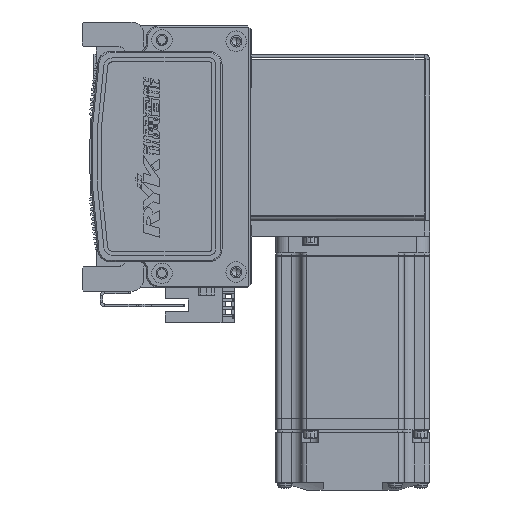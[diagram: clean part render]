
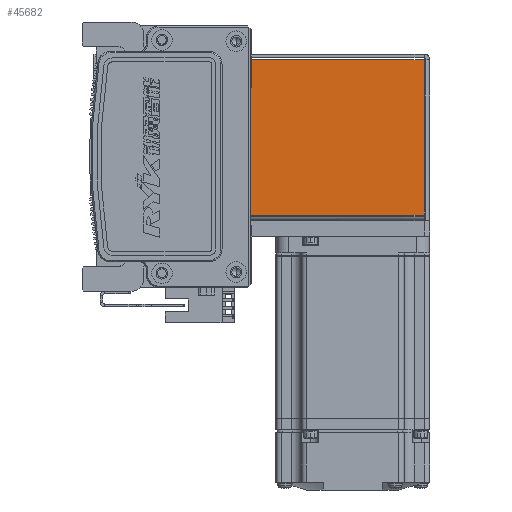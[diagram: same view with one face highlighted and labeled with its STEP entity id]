
A CAD part, left-side view. The second image highlights one B-rep face of the part: STEP entity #45682.
In plain terms, the highlighted planar face has unit normal (-1, 0, 0) as drawn and (0, 0, -1) by its records, which use the part's own axes.
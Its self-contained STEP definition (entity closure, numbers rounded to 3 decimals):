
#1546 = EDGE_CURVE ( 'NONE', #33758, #45733, #26281, .T. ) ;
#1597 = EDGE_CURVE ( 'NONE', #13775, #45733, #9065, .T. ) ;
#2420 = CARTESIAN_POINT ( 'NONE',  ( -30.293, 0.737, -35. ) ) ;
#3363 = ORIENTED_EDGE ( 'NONE', *, *, #4790, .T. ) ;
#4790 = EDGE_CURVE ( 'NONE', #43513, #13775, #25583, .T. ) ;
#5413 = CARTESIAN_POINT ( 'NONE',  ( -30.293, 72.5, -35. ) ) ;
#6243 = CARTESIAN_POINT ( 'NONE',  ( 0., 72.5, -35. ) ) ;
#6701 = CARTESIAN_POINT ( 'NONE',  ( -30.293, 0., -35. ) ) ;
#7238 = DIRECTION ( 'NONE',  ( 0., -1., 0. ) ) ;
#9065 = LINE ( 'NONE', #56332, #53310 ) ;
#10719 = VECTOR ( 'NONE', #34618, 1000. ) ;
#12644 = CARTESIAN_POINT ( 'NONE',  ( 30.263, 72.5, -35. ) ) ;
#13775 = VERTEX_POINT ( 'NONE', #12644 ) ;
#19368 = FACE_OUTER_BOUND ( 'NONE', #60472, .T. ) ;
#21098 = AXIS2_PLACEMENT_3D ( 'NONE', #43837, #33352, #7238 ) ;
#24979 = DIRECTION ( 'NONE',  ( 0., -1., 0. ) ) ;
#25583 = LINE ( 'NONE', #6243, #65643 ) ;
#26281 = LINE ( 'NONE', #50369, #10719 ) ;
#33352 = DIRECTION ( 'NONE',  ( 0., 0., 1. ) ) ;
#33758 = VERTEX_POINT ( 'NONE', #2420 ) ;
#34618 = DIRECTION ( 'NONE',  ( 1., 0., 0. ) ) ;
#36436 = ORIENTED_EDGE ( 'NONE', *, *, #1597, .T. ) ;
#41394 = LINE ( 'NONE', #6701, #59456 ) ;
#43407 = ORIENTED_EDGE ( 'NONE', *, *, #1546, .F. ) ;
#43513 = VERTEX_POINT ( 'NONE', #5413 ) ;
#43837 = CARTESIAN_POINT ( 'NONE',  ( 0., 0., -35. ) ) ;
#45682 = ADVANCED_FACE ( 'NONE', ( #19368 ), #59852, .F. ) ;
#45733 = VERTEX_POINT ( 'NONE', #54609 ) ;
#46287 = EDGE_CURVE ( 'NONE', #33758, #43513, #41394, .T. ) ;
#49259 = DIRECTION ( 'NONE',  ( 0., 1., 0. ) ) ;
#50369 = CARTESIAN_POINT ( 'NONE',  ( 32.5, 0.737, -35. ) ) ;
#53169 = DIRECTION ( 'NONE',  ( 1., 0., 0. ) ) ;
#53310 = VECTOR ( 'NONE', #24979, 1000. ) ;
#54609 = CARTESIAN_POINT ( 'NONE',  ( 30.263, 0.737, -35. ) ) ;
#56332 = CARTESIAN_POINT ( 'NONE',  ( 30.263, 72.5, -35. ) ) ;
#56773 = ORIENTED_EDGE ( 'NONE', *, *, #46287, .T. ) ;
#59456 = VECTOR ( 'NONE', #49259, 1000. ) ;
#59852 = PLANE ( 'NONE',  #21098 ) ;
#60472 = EDGE_LOOP ( 'NONE', ( #36436, #43407, #56773, #3363 ) ) ;
#65643 = VECTOR ( 'NONE', #53169, 1000. ) ;
